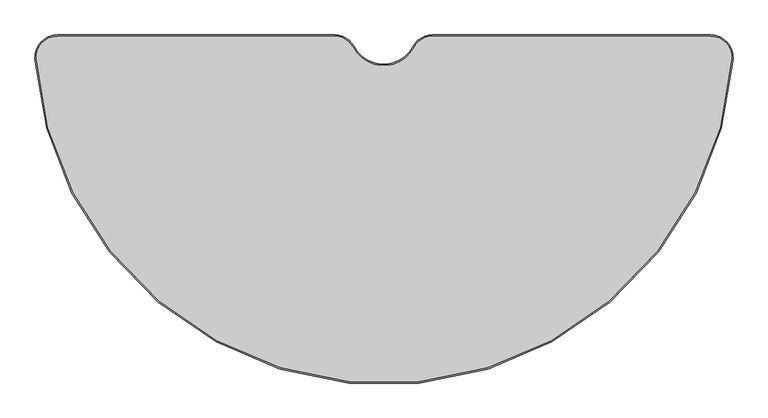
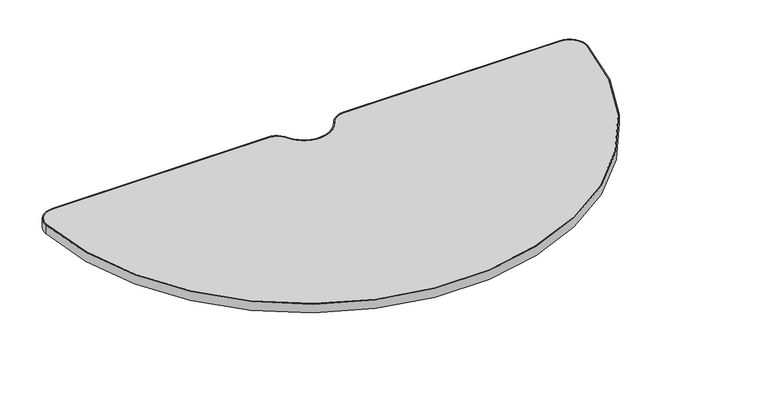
"""IFC4 building model written with IfcOpenShell, lengths in millimetres: furniture geometry, Steelcase - Groupwork - Table - Top - Half Round with Cutout : 33D x 66W - HPL."""

from ifc_helpers import new_model, si_unit, point, frame, frame_2d, origin, origin_2d, place, context, project, spatial, polyline, circle_curve, trimmed, segment, composite_curve, outline, extrude, source, transform, mapped, element, save


def furniture_f40bed82(model_context):
    return source(origin(), model_context, "Body", "SweptSolid", [
        extrude(outline(composite_curve([segment(polyline([(-779.1968275, -0.0540777), (-117.4841676, -0.0540777)]), True, "CONTINUOUS"), segment(trimmed(circle_curve(frame_2d((-117.4841676, -52.2885423)), 52.2344646), [point((-117.4841676, -0.0540777))], [point((-71.3165363, -27.8551818))], False, "CARTESIAN"), True, "CONTINUOUS"), segment(trimmed(circle_curve(frame_2d((-0.933243, 9.3938676)), 79.6322777), [point((-71.3165363, -27.8551818))], [point((69.5367597, -27.6908782))], True, "CARTESIAN"), True, "CONTINUOUS"), segment(trimmed(circle_curve(frame_2d((115.3106345, -51.7793193)), 51.7252415), [point((69.5367597, -27.6908782))], [point((115.3106345, -0.0540777))], False, "CARTESIAN"), True, "CONTINUOUS"), segment(polyline([(115.3106345, -0.0540777), (779.1968275, -0.0540777)]), True, "CONTINUOUS"), segment(trimmed(circle_curve(frame_2d((779.1968275, -53.7718001)), 53.7177223), [point((779.1968275, -0.0540777))], [point((832.7870955, -57.470025))], False, "CARTESIAN"), True, "CONTINUOUS"), segment(trimmed(circle_curve(origin_2d(), 834.7677223), [point((832.7870955, -57.470025))], [point((-832.7870955, -57.470025))], False, "CARTESIAN"), True, "CONTINUOUS"), segment(trimmed(circle_curve(frame_2d((-779.1968275, -53.7718001)), 53.7177223), [point((-832.7870955, -57.470025))], [point((-779.1968275, -0.0540777))], False, "CARTESIAN"), True, "CONTINUOUS")], self_intersect=False), holes=[composite_curve([segment(trimmed(circle_curve(frame_2d((-0.933243, 9.3938676)), 82.55), [point((72.1187767, -29.0496612))], [point((-73.8953763, -29.2199849))], False, "CARTESIAN"), True, "CONTINUOUS"), segment(trimmed(circle_curve(frame_2d((-117.4841676, -52.2885423)), 49.3167423), [point((-73.8953763, -29.2199849))], [point((-117.4841676, -2.9718001))], True, "CARTESIAN"), True, "CONTINUOUS"), segment(polyline([(-117.4841676, -2.9718001), (-779.1968275, -2.9718001)]), True, "CONTINUOUS"), segment(trimmed(circle_curve(frame_2d((-779.1968275, -53.7718001)), 50.8), [point((-779.1968275, -2.9718001))], [point((-829.876296, -57.2691529))], True, "CARTESIAN"), True, "CONTINUOUS"), segment(trimmed(circle_curve(origin_2d(), 831.85), [point((-829.876296, -57.2691529))], [point((829.876296, -57.2691529))], True, "CARTESIAN"), True, "CONTINUOUS"), segment(trimmed(circle_curve(frame_2d((779.1968275, -53.7718001)), 50.8), [point((829.876296, -57.2691529))], [point((779.1968275, -2.9718001))], True, "CARTESIAN"), True, "CONTINUOUS"), segment(polyline([(779.1968275, -2.9718001), (115.3106345, -2.9718001)]), True, "CONTINUOUS"), segment(trimmed(circle_curve(frame_2d((115.3106345, -51.7793193)), 48.8075192), [point((115.3106345, -2.9718001))], [point((72.1187767, -29.0496612))], True, "CARTESIAN"), True, "CONTINUOUS")], self_intersect=False)]), frame((0.0, 0.0, 695.579), z_axis=(0.0, 0.0, 1.0), x_axis=(1.0, 0.0, 0.0)), (0.0, 0.0, 1.0), 28.702),
        extrude(outline(composite_curve([segment(trimmed(circle_curve(frame_2d((-117.4841676, -52.2885423)), 49.3167423), [point((-117.4841676, -2.9718001))], [point((-73.8953763, -29.2199849))], False, "CARTESIAN"), True, "CONTINUOUS"), segment(trimmed(circle_curve(frame_2d((-0.933243, 9.3938676)), 82.55), [point((-73.8953763, -29.2199849))], [point((72.1187767, -29.0496612))], True, "CARTESIAN"), True, "CONTINUOUS"), segment(trimmed(circle_curve(frame_2d((115.3106345, -51.7793193)), 48.8075192), [point((72.1187767, -29.0496612))], [point((115.3106345, -2.9718001))], False, "CARTESIAN"), True, "CONTINUOUS"), segment(polyline([(115.3106345, -2.9718001), (779.1968275, -2.9718001)]), True, "CONTINUOUS"), segment(trimmed(circle_curve(frame_2d((779.1968275, -53.7718001)), 50.8), [point((779.1968275, -2.9718001))], [point((829.876296, -57.2691529))], False, "CARTESIAN"), True, "CONTINUOUS"), segment(trimmed(circle_curve(origin_2d(), 831.85), [point((829.876296, -57.2691529))], [point((-829.876296, -57.2691529))], False, "CARTESIAN"), True, "CONTINUOUS"), segment(trimmed(circle_curve(frame_2d((-779.1968275, -53.7718001)), 50.8), [point((-829.876296, -57.2691529))], [point((-779.1968275, -2.9718001))], False, "CARTESIAN"), True, "CONTINUOUS"), segment(polyline([(-779.1968275, -2.9718001), (-117.4841676, -2.9718001)]), True, "CONTINUOUS")], self_intersect=False)), frame((0.0, 0.0, 695.579), z_axis=(0.0, 0.0, 1.0), x_axis=(1.0, 0.0, 0.0)), (0.0, 0.0, 1.0), 28.702),
    ])


if __name__ == "__main__":
    model = new_model("IFC4")
    model_context = context("Model", 3, world=origin())
    ifc_project = project(units=[si_unit("LENGTHUNIT", "METRE", prefix="MILLI")], contexts=[model_context])
    site = spatial("IfcSite", under=ifc_project)
    building = spatial("IfcBuilding", under=site)
    placement = place(None, origin())
    furniture_shape = furniture_f40bed82(model_context)
    element("IfcFurniture", 1, ObjectType="Steelcase - Groupwork - Table - Top - Half Round with Cutout : 33D x 66W - HPL", at=placement, inside=building, context=model_context, shape_type="MappedRepresentation", body=[
        mapped(furniture_shape, transform((0.0, 0.0, 0.0), x_axis=(1.0, 0.0, 0.0), y_axis=(0.0, 1.0, 0.0), z_axis=(0.0, 0.0, 1.0))),
    ])
    save(model, "model.ifc")
